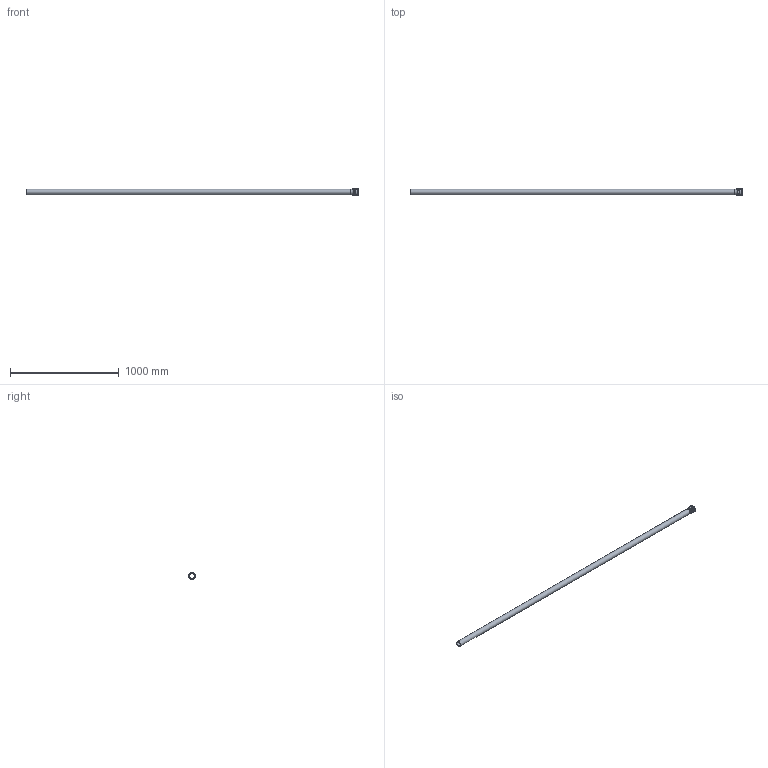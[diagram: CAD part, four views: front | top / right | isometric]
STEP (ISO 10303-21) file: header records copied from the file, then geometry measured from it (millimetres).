
FILE_DESCRIPTION(/* description */ (''),/* implementation_level */ '2;1');
FILE_NAME(/* name */ 'H:\Geberit-Teile\Export\PP_Rohr\stp\393207.stp',/* time_stamp */ '2017-02-13T16:05:44+01:00',/* author */ ('seihe2'),/* organization */ (''),/* preprocessor_version */ 'ST-DEVELOPER v15.2',/* originating_system */ 'Autodesk Inventor 2014',/* authorisation */ '');
FILE_SCHEMA (('AUTOMOTIVE_DESIGN { 1 0 10303 214 3 1 1 }'));
Length unit declared in the file: millimetre
Products named in the file (1): 393207
Bounding box: 3050.8 x 65.1 x 65.1 mm (x, y, z)
Volume: 1367019 mm3; surface area: 915583.1 mm2
Topology: 2 solids, 2 shells, 38 faces, 82 edges, 57 vertices
Faces by surface type: torus 16, cylinder 10, plane 8, cone 2, bspline 2
Full cylindrical faces by diameter (mm): 44.15 x2, 50.15 x2, 50.8 x1, 52 x1, 56.3 x1, 57.5 x1, 59.9 x1, 65.1 x1
Entity records: 2101 total; most frequent: CARTESIAN_POINT 1309, DIRECTION 132, ORIENTED_EDGE 130, EDGE_LOOP 68, AXIS2_PLACEMENT_3D 66, EDGE_CURVE 65, VERTEX_POINT 57, STYLED_ITEM 40
